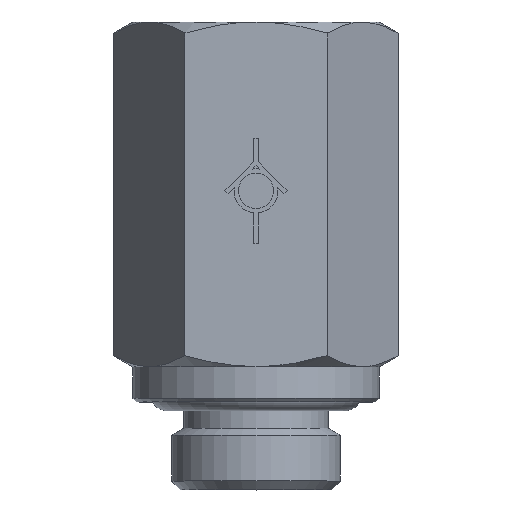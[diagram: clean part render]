
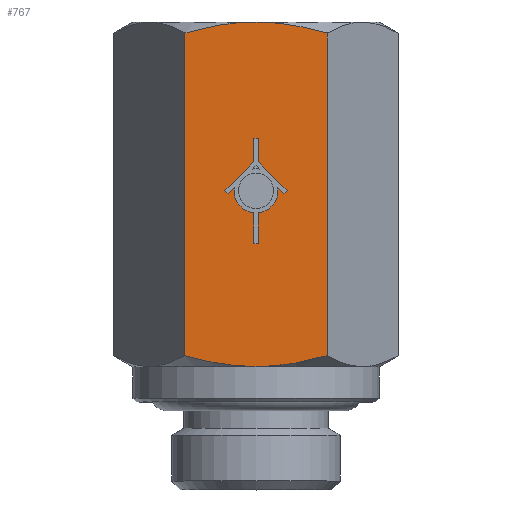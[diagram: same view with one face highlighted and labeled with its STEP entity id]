
A CAD part, top view. The second image highlights one B-rep face of the part: STEP entity #767.
In plain terms, the highlighted planar face has unit normal (0, 0, 1).
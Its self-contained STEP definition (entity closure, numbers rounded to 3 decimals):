
#289=CARTESIAN_POINT('',(0.125,14.,7.));
#290=VERTEX_POINT('',#289);
#291=CARTESIAN_POINT('',(-0.125,14.,7.));
#292=VERTEX_POINT('',#291);
#293=CARTESIAN_POINT('',(0.125,14.,7.));
#294=DIRECTION('',(-1.0,0.0,0.0));
#295=VECTOR('',#294,0.25);
#296=LINE('',#293,#295);
#297=EDGE_CURVE('',#290,#292,#296,.T.);
#320=CARTESIAN_POINT('',(-0.125,15.756,7.));
#321=VERTEX_POINT('',#320);
#322=CARTESIAN_POINT('',(-0.125,14.,7.));
#323=DIRECTION('',(0.0,1.0,0.0));
#324=VECTOR('',#323,1.756);
#325=LINE('',#322,#324);
#326=EDGE_CURVE('',#292,#321,#325,.T.);
#344=CARTESIAN_POINT('',(-1.237,17.177,7.));
#345=VERTEX_POINT('',#344);
#346=CARTESIAN_POINT('',(0.,17.,7.));
#347=DIRECTION('',(0.0,0.0,-1.0));
#348=DIRECTION('',(-0.99,0.141,0.0));
#349=AXIS2_PLACEMENT_3D('',#346,#347,#348);
#350=CIRCLE('',#349,1.25);
#351=EDGE_CURVE('',#321,#345,#350,.T.);
#369=CARTESIAN_POINT('',(-1.591,16.823,7.));
#370=VERTEX_POINT('',#369);
#371=CARTESIAN_POINT('',(-1.237,17.177,7.));
#372=DIRECTION('',(-0.707,-0.707,0.0));
#373=VECTOR('',#372,0.5);
#374=LINE('',#371,#373);
#375=EDGE_CURVE('',#345,#370,#374,.T.);
#393=CARTESIAN_POINT('',(-1.768,17.,7.));
#394=VERTEX_POINT('',#393);
#395=CARTESIAN_POINT('',(-1.591,16.823,7.));
#396=DIRECTION('',(-0.707,0.707,0.0));
#397=VECTOR('',#396,0.25);
#398=LINE('',#395,#397);
#399=EDGE_CURVE('',#370,#394,#398,.T.);
#417=CARTESIAN_POINT('',(-0.125,18.643,7.));
#418=VERTEX_POINT('',#417);
#419=CARTESIAN_POINT('',(-1.768,17.,7.));
#420=DIRECTION('',(0.707,0.707,0.0));
#421=VECTOR('',#420,2.323);
#422=LINE('',#419,#421);
#423=EDGE_CURVE('',#394,#418,#422,.T.);
#441=CARTESIAN_POINT('',(-0.125,20.,7.));
#442=VERTEX_POINT('',#441);
#443=CARTESIAN_POINT('',(-0.125,18.643,7.));
#444=DIRECTION('',(0.0,1.0,0.0));
#445=VECTOR('',#444,1.357);
#446=LINE('',#443,#445);
#447=EDGE_CURVE('',#418,#442,#446,.T.);
#502=CARTESIAN_POINT('',(0.125,15.756,7.));
#503=VERTEX_POINT('',#502);
#504=CARTESIAN_POINT('',(0.125,15.756,7.));
#505=DIRECTION('',(0.0,-1.0,0.0));
#506=VECTOR('',#505,1.756);
#507=LINE('',#504,#506);
#508=EDGE_CURVE('',#503,#290,#507,.T.);
#526=CARTESIAN_POINT('',(1.237,17.177,7.));
#527=VERTEX_POINT('',#526);
#528=CARTESIAN_POINT('',(0.,17.,7.));
#529=DIRECTION('',(0.0,0.0,-1.0));
#530=DIRECTION('',(0.1,-0.995,0.0));
#531=AXIS2_PLACEMENT_3D('',#528,#529,#530);
#532=CIRCLE('',#531,1.25);
#533=EDGE_CURVE('',#527,#503,#532,.T.);
#551=CARTESIAN_POINT('',(1.591,16.823,7.));
#552=VERTEX_POINT('',#551);
#553=CARTESIAN_POINT('',(1.591,16.823,7.));
#554=DIRECTION('',(-0.707,0.707,0.0));
#555=VECTOR('',#554,0.5);
#556=LINE('',#553,#555);
#557=EDGE_CURVE('',#552,#527,#556,.T.);
#575=CARTESIAN_POINT('',(1.768,17.,7.));
#576=VERTEX_POINT('',#575);
#577=CARTESIAN_POINT('',(1.768,17.,7.));
#578=DIRECTION('',(-0.707,-0.707,0.0));
#579=VECTOR('',#578,0.25);
#580=LINE('',#577,#579);
#581=EDGE_CURVE('',#576,#552,#580,.T.);
#599=CARTESIAN_POINT('',(0.125,18.643,7.));
#600=VERTEX_POINT('',#599);
#601=CARTESIAN_POINT('',(0.125,18.643,7.));
#602=DIRECTION('',(0.707,-0.707,0.0));
#603=VECTOR('',#602,2.323);
#604=LINE('',#601,#603);
#605=EDGE_CURVE('',#600,#576,#604,.T.);
#623=CARTESIAN_POINT('',(0.125,20.,7.));
#624=VERTEX_POINT('',#623);
#625=CARTESIAN_POINT('',(0.125,20.,7.));
#626=DIRECTION('',(0.0,-1.0,0.0));
#627=VECTOR('',#626,1.357);
#628=LINE('',#625,#627);
#629=EDGE_CURVE('',#624,#600,#628,.T.);
#647=CARTESIAN_POINT('',(-0.125,20.,7.));
#648=DIRECTION('',(1.0,0.0,0.0));
#649=VECTOR('',#648,0.25);
#650=LINE('',#647,#649);
#651=EDGE_CURVE('',#442,#624,#650,.T.);
#668=CARTESIAN_POINT('',(-4.041,26.6,7.));
#669=DIRECTION('',(0.0,0.0,1.0));
#670=DIRECTION('',(1.0,0.0,0.0));
#671=AXIS2_PLACEMENT_3D('',#668,#669,#670);
#672=PLANE('',#671);
#673=CARTESIAN_POINT('',(0.,26.6,7.));
#674=VERTEX_POINT('',#673);
#675=CARTESIAN_POINT('',(4.041,25.975,7.));
#676=VERTEX_POINT('',#675);
#677=CARTESIAN_POINT('',(0.,26.6,7.));
#678=CARTESIAN_POINT('',(1.876,26.6,7.));
#679=CARTESIAN_POINT('',(4.041,25.975,7.));
#687=(BOUNDED_CURVE()B_SPLINE_CURVE(2,(#677,#678,#679),.UNSPECIFIED.,.F.,.U.)B_SPLINE_CURVE_WITH_KNOTS((3,3),(0.41,0.82),.UNSPECIFIED.)CURVE()GEOMETRIC_REPRESENTATION_ITEM()RATIONAL_B_SPLINE_CURVE((1.0,1.038,1.0))REPRESENTATION_ITEM(''));
#688=EDGE_CURVE('',#674,#676,#687,.T.);
#689=ORIENTED_EDGE('',*,*,#688,.F.);
#690=CARTESIAN_POINT('',(-4.041,25.975,7.));
#691=VERTEX_POINT('',#690);
#692=CARTESIAN_POINT('',(-4.041,25.975,7.));
#693=CARTESIAN_POINT('',(-1.876,26.6,7.));
#694=CARTESIAN_POINT('',(0.,26.6,7.));
#702=(BOUNDED_CURVE()B_SPLINE_CURVE(2,(#692,#693,#694),.UNSPECIFIED.,.F.,.U.)B_SPLINE_CURVE_WITH_KNOTS((3,3),(0.0,0.41),.UNSPECIFIED.)CURVE()GEOMETRIC_REPRESENTATION_ITEM()RATIONAL_B_SPLINE_CURVE((1.0,1.038,1.0))REPRESENTATION_ITEM(''));
#703=EDGE_CURVE('',#691,#674,#702,.T.);
#704=ORIENTED_EDGE('',*,*,#703,.F.);
#705=CARTESIAN_POINT('',(-4.041,7.625,7.));
#706=VERTEX_POINT('',#705);
#707=CARTESIAN_POINT('',(-4.041,25.975,7.));
#708=DIRECTION('',(0.0,-1.0,0.0));
#709=VECTOR('',#708,18.35);
#710=LINE('',#707,#709);
#711=EDGE_CURVE('',#691,#706,#710,.T.);
#712=ORIENTED_EDGE('',*,*,#711,.T.);
#713=CARTESIAN_POINT('',(0.,7.,7.));
#714=VERTEX_POINT('',#713);
#715=CARTESIAN_POINT('',(0.,7.,7.));
#716=CARTESIAN_POINT('',(-1.876,7.,7.));
#717=CARTESIAN_POINT('',(-4.041,7.625,7.));
#725=(BOUNDED_CURVE()B_SPLINE_CURVE(2,(#715,#716,#717),.UNSPECIFIED.,.F.,.U.)B_SPLINE_CURVE_WITH_KNOTS((3,3),(0.41,0.82),.UNSPECIFIED.)CURVE()GEOMETRIC_REPRESENTATION_ITEM()RATIONAL_B_SPLINE_CURVE((1.0,1.038,1.0))REPRESENTATION_ITEM(''));
#726=EDGE_CURVE('',#714,#706,#725,.T.);
#727=ORIENTED_EDGE('',*,*,#726,.F.);
#728=CARTESIAN_POINT('',(4.041,7.625,7.));
#729=VERTEX_POINT('',#728);
#730=CARTESIAN_POINT('',(4.041,7.625,7.));
#731=CARTESIAN_POINT('',(1.876,7.,7.));
#732=CARTESIAN_POINT('',(0.,7.,7.));
#740=(BOUNDED_CURVE()B_SPLINE_CURVE(2,(#730,#731,#732),.UNSPECIFIED.,.F.,.U.)B_SPLINE_CURVE_WITH_KNOTS((3,3),(0.0,0.41),.UNSPECIFIED.)CURVE()GEOMETRIC_REPRESENTATION_ITEM()RATIONAL_B_SPLINE_CURVE((1.0,1.038,1.0))REPRESENTATION_ITEM(''));
#741=EDGE_CURVE('',#729,#714,#740,.T.);
#742=ORIENTED_EDGE('',*,*,#741,.F.);
#743=CARTESIAN_POINT('',(4.041,25.975,7.));
#744=DIRECTION('',(0.0,-1.0,0.0));
#745=VECTOR('',#744,18.35);
#746=LINE('',#743,#745);
#747=EDGE_CURVE('',#676,#729,#746,.T.);
#748=ORIENTED_EDGE('',*,*,#747,.F.);
#749=EDGE_LOOP('',(#689,#704,#712,#727,#742,#748));
#750=FACE_OUTER_BOUND('',#749,.T.);
#751=ORIENTED_EDGE('',*,*,#297,.T.);
#752=ORIENTED_EDGE('',*,*,#326,.T.);
#753=ORIENTED_EDGE('',*,*,#351,.T.);
#754=ORIENTED_EDGE('',*,*,#375,.T.);
#755=ORIENTED_EDGE('',*,*,#399,.T.);
#756=ORIENTED_EDGE('',*,*,#423,.T.);
#757=ORIENTED_EDGE('',*,*,#447,.T.);
#758=ORIENTED_EDGE('',*,*,#651,.T.);
#759=ORIENTED_EDGE('',*,*,#629,.T.);
#760=ORIENTED_EDGE('',*,*,#605,.T.);
#761=ORIENTED_EDGE('',*,*,#581,.T.);
#762=ORIENTED_EDGE('',*,*,#557,.T.);
#763=ORIENTED_EDGE('',*,*,#533,.T.);
#764=ORIENTED_EDGE('',*,*,#508,.T.);
#765=EDGE_LOOP('',(#751,#752,#753,#754,#755,#756,#757,#758,#759,#760,#761,#762,#763,#764));
#766=FACE_BOUND('',#765,.T.);
#767=ADVANCED_FACE('',(#750,#766),#672,.T.);
